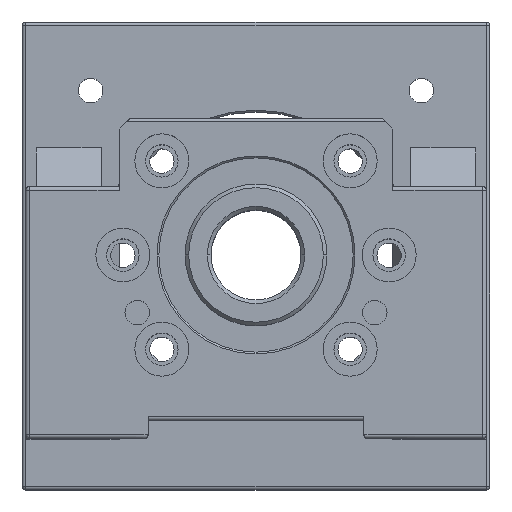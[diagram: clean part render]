
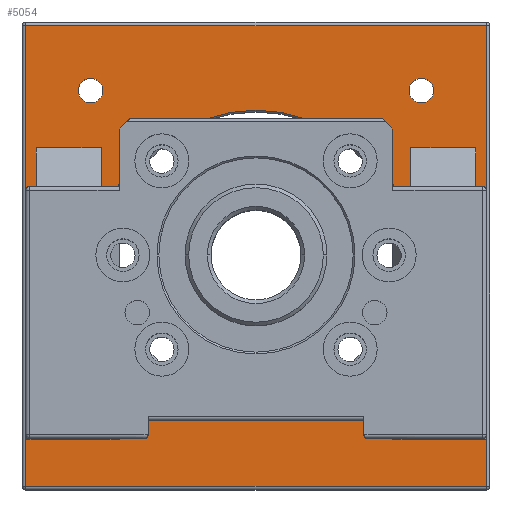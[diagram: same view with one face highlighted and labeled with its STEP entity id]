
A CAD part, top view. The second image highlights one B-rep face of the part: STEP entity #5054.
In plain terms, the highlighted planar face has unit normal (0, 0, 1).
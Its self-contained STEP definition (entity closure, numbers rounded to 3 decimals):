
#1809=DIRECTION('',(0.,-1.,0.));
#1810=VECTOR('',#1809,81.);
#1811=CARTESIAN_POINT('',(-61.,30.,20.));
#1812=LINE('',#1811,#1810);
#1817=CARTESIAN_POINT('',(-45.962,-45.962,20.));
#1818=DIRECTION('',(0.,0.,-1.));
#1819=DIRECTION('',(0.871,0.491,0.));
#1820=AXIS2_PLACEMENT_3D('',#1817,#1818,#1819);
#1822=DIRECTION('',(-1.,0.,0.));
#1823=VECTOR('',#1822,17.);
#1824=CARTESIAN_POINT('',(-44.,-51.,20.));
#1825=LINE('',#1824,#1823);
#1826=CARTESIAN_POINT('',(-44.,-50.,20.));
#1827=DIRECTION('',(0.,0.,-1.));
#1828=DIRECTION('',(1.,0.,0.));
#1829=AXIS2_PLACEMENT_3D('',#1826,#1827,#1828);
#1831=CARTESIAN_POINT('',(-45.962,-45.962,20.));
#1832=DIRECTION('',(0.,0.,-1.));
#1833=DIRECTION('',(1.,0.,0.));
#1834=AXIS2_PLACEMENT_3D('',#1831,#1832,#1833);
#1836=CARTESIAN_POINT('',(45.962,-45.962,20.));
#1837=DIRECTION('',(0.,0.,-1.));
#1838=DIRECTION('',(-0.871,-0.491,0.));
#1839=AXIS2_PLACEMENT_3D('',#1836,#1837,#1838);
#1841=CARTESIAN_POINT('',(44.,-50.,20.));
#1842=DIRECTION('',(0.,0.,-1.));
#1843=DIRECTION('',(0.,-1.,0.));
#1844=AXIS2_PLACEMENT_3D('',#1841,#1842,#1843);
#1846=DIRECTION('',(-1.,0.,0.));
#1847=VECTOR('',#1846,16.);
#1848=CARTESIAN_POINT('',(60.,-51.,20.));
#1849=LINE('',#1848,#1847);
#1850=CARTESIAN_POINT('',(60.,-50.,20.));
#1851=DIRECTION('',(0.,0.,-1.));
#1852=DIRECTION('',(1.,0.,0.));
#1853=AXIS2_PLACEMENT_3D('',#1850,#1851,#1852);
#1855=CARTESIAN_POINT('',(45.962,-45.962,20.));
#1856=DIRECTION('',(0.,0.,-1.));
#1857=DIRECTION('',(-1.,0.,0.));
#1858=AXIS2_PLACEMENT_3D('',#1855,#1856,#1857);
#1860=CARTESIAN_POINT('',(45.962,45.962,20.));
#1861=DIRECTION('',(0.,0.,-1.));
#1862=DIRECTION('',(-1.,0.,0.));
#1863=AXIS2_PLACEMENT_3D('',#1860,#1861,#1862);
#1865=CARTESIAN_POINT('',(45.962,45.962,20.));
#1866=DIRECTION('',(0.,0.,-1.));
#1867=DIRECTION('',(1.,0.,0.));
#1868=AXIS2_PLACEMENT_3D('',#1865,#1866,#1867);
#1870=CARTESIAN_POINT('',(-45.962,45.962,20.));
#1871=DIRECTION('',(0.,0.,-1.));
#1872=DIRECTION('',(-1.,0.,0.));
#1873=AXIS2_PLACEMENT_3D('',#1870,#1871,#1872);
#1875=CARTESIAN_POINT('',(-45.962,45.962,20.));
#1876=DIRECTION('',(0.,0.,-1.));
#1877=DIRECTION('',(1.,0.,0.));
#1878=AXIS2_PLACEMENT_3D('',#1875,#1876,#1877);
#1880=CARTESIAN_POINT('',(0.,0.,20.));
#1881=DIRECTION('',(0.,0.,-1.));
#1882=DIRECTION('',(1.,0.,0.));
#1883=AXIS2_PLACEMENT_3D('',#1880,#1881,#1882);
#1885=CARTESIAN_POINT('',(0.,0.,20.));
#1886=DIRECTION('',(0.,0.,-1.));
#1887=DIRECTION('',(-1.,0.,0.));
#1888=AXIS2_PLACEMENT_3D('',#1885,#1886,#1887);
#1890=DIRECTION('',(0.,1.,0.));
#1891=VECTOR('',#1890,128.);
#1892=CARTESIAN_POINT('',(-64.,-64.,20.));
#1893=LINE('',#1892,#1891);
#1913=DIRECTION('',(1.,0.,0.));
#1914=VECTOR('',#1913,128.);
#1915=CARTESIAN_POINT('',(-64.,64.,20.));
#1916=LINE('',#1915,#1914);
#2091=DIRECTION('',(-1.,0.,0.));
#2092=VECTOR('',#2091,128.);
#2093=CARTESIAN_POINT('',(64.,-64.,20.));
#2094=LINE('',#2093,#2092);
#2137=DIRECTION('',(0.,-1.,0.));
#2138=VECTOR('',#2137,128.);
#2139=CARTESIAN_POINT('',(64.,64.,20.));
#2140=LINE('',#2139,#2138);
#2196=DIRECTION('',(0.,1.,0.));
#2197=VECTOR('',#2196,2.369);
#2198=CARTESIAN_POINT('',(-43.,-50.,20.));
#2199=LINE('',#2198,#2197);
#2208=DIRECTION('',(0.,1.,0.));
#2209=VECTOR('',#2208,74.293);
#2210=CARTESIAN_POINT('',(-43.,-44.293,20.));
#2211=LINE('',#2210,#2209);
#2242=DIRECTION('',(-1.,0.,0.));
#2243=VECTOR('',#2242,18.);
#2244=CARTESIAN_POINT('',(-43.,30.,20.));
#2245=LINE('',#2244,#2243);
#2321=DIRECTION('',(0.,-1.,0.));
#2322=VECTOR('',#2321,74.293);
#2323=CARTESIAN_POINT('',(43.,30.,20.));
#2324=LINE('',#2323,#2322);
#2333=DIRECTION('',(0.,-1.,0.));
#2334=VECTOR('',#2333,2.369);
#2335=CARTESIAN_POINT('',(43.,-47.631,20.));
#2336=LINE('',#2335,#2334);
#2337=DIRECTION('',(-1.,0.,0.));
#2338=VECTOR('',#2337,18.);
#2339=CARTESIAN_POINT('',(61.,30.,20.));
#2340=LINE('',#2339,#2338);
#2356=DIRECTION('',(0.,1.,0.));
#2357=VECTOR('',#2356,80.);
#2358=CARTESIAN_POINT('',(61.,-50.,20.));
#2359=LINE('',#2358,#2357);
#3502=CARTESIAN_POINT('',(61.,-50.,20.));
#3503=CARTESIAN_POINT('',(60.,-51.,20.));
#3504=VERTEX_POINT('',#3502);
#3505=VERTEX_POINT('',#3503);
#3532=CARTESIAN_POINT('',(43.,-47.631,20.));
#3533=CARTESIAN_POINT('',(42.562,-45.962,20.));
#3534=VERTEX_POINT('',#3532);
#3535=VERTEX_POINT('',#3533);
#3537=CARTESIAN_POINT('',(-42.562,-45.962,20.));
#3539=VERTEX_POINT('',#3537);
#3591=CARTESIAN_POINT('',(40.5,0.,20.));
#3592=CARTESIAN_POINT('',(-40.5,0.,20.));
#3593=VERTEX_POINT('',#3591);
#3594=VERTEX_POINT('',#3592);
#3621=CARTESIAN_POINT('',(64.,-64.,20.));
#3622=CARTESIAN_POINT('',(-64.,-64.,20.));
#3623=VERTEX_POINT('',#3621);
#3624=VERTEX_POINT('',#3622);
#3735=CARTESIAN_POINT('',(-43.,-44.293,20.));
#3736=CARTESIAN_POINT('',(-43.,30.,20.));
#3737=VERTEX_POINT('',#3735);
#3738=VERTEX_POINT('',#3736);
#3741=CARTESIAN_POINT('',(43.,-44.293,20.));
#3742=VERTEX_POINT('',#3741);
#3773=CARTESIAN_POINT('',(44.,-51.,20.));
#3774=VERTEX_POINT('',#3773);
#3777=CARTESIAN_POINT('',(-44.,-51.,20.));
#3778=CARTESIAN_POINT('',(-61.,-51.,20.));
#3779=VERTEX_POINT('',#3777);
#3780=VERTEX_POINT('',#3778);
#3796=CARTESIAN_POINT('',(-61.,30.,20.));
#3798=VERTEX_POINT('',#3796);
#3811=CARTESIAN_POINT('',(64.,64.,20.));
#3813=VERTEX_POINT('',#3811);
#3843=CARTESIAN_POINT('',(61.,30.,20.));
#3844=CARTESIAN_POINT('',(43.,30.,20.));
#3845=VERTEX_POINT('',#3843);
#3846=VERTEX_POINT('',#3844);
#3882=CARTESIAN_POINT('',(-64.,64.,20.));
#3883=VERTEX_POINT('',#3882);
#3921=CARTESIAN_POINT('',(49.362,45.962,20.));
#3923=VERTEX_POINT('',#3921);
#3995=CARTESIAN_POINT('',(-42.562,45.962,20.));
#3996=CARTESIAN_POINT('',(-49.362,45.962,20.));
#3997=VERTEX_POINT('',#3995);
#3998=VERTEX_POINT('',#3996);
#4026=CARTESIAN_POINT('',(-43.,-50.,20.));
#4027=CARTESIAN_POINT('',(-43.,-47.631,20.));
#4028=VERTEX_POINT('',#4026);
#4029=VERTEX_POINT('',#4027);
#4084=CARTESIAN_POINT('',(43.,-50.,20.));
#4085=VERTEX_POINT('',#4084);
#4094=CARTESIAN_POINT('',(42.562,45.962,20.));
#4095=VERTEX_POINT('',#4094);
#4985=CARTESIAN_POINT('',(0.,0.,20.));
#4986=DIRECTION('',(0.,0.,1.));
#4987=DIRECTION('',(1.,0.,0.));
#4988=AXIS2_PLACEMENT_3D('',#4985,#4986,#4987);
#4989=PLANE('',#4988);
#4991=ORIENTED_EDGE('',*,*,#4990,.T.);
#4993=ORIENTED_EDGE('',*,*,#4992,.T.);
#4995=ORIENTED_EDGE('',*,*,#4994,.T.);
#4997=ORIENTED_EDGE('',*,*,#4996,.T.);
#4998=EDGE_LOOP('',(#4991,#4993,#4995,#4997));
#4999=FACE_OUTER_BOUND('',#4998,.F.);
#5001=ORIENTED_EDGE('',*,*,#5000,.F.);
#5003=ORIENTED_EDGE('',*,*,#5002,.T.);
#5005=ORIENTED_EDGE('',*,*,#5004,.T.);
#5006=ORIENTED_EDGE('',*,*,#4976,.T.);
#5007=ORIENTED_EDGE('',*,*,#4497,.F.);
#5009=ORIENTED_EDGE('',*,*,#5008,.F.);
#5011=ORIENTED_EDGE('',*,*,#5010,.T.);
#5013=ORIENTED_EDGE('',*,*,#5012,.F.);
#5014=EDGE_LOOP('',(#5001,#5003,#5005,#5006,#5007,#5009,#5011,#5013));
#5015=FACE_BOUND('',#5014,.F.);
#5017=ORIENTED_EDGE('',*,*,#5016,.F.);
#5019=ORIENTED_EDGE('',*,*,#5018,.T.);
#5021=ORIENTED_EDGE('',*,*,#5020,.F.);
#5023=ORIENTED_EDGE('',*,*,#5022,.F.);
#5025=ORIENTED_EDGE('',*,*,#5024,.F.);
#5027=ORIENTED_EDGE('',*,*,#5026,.T.);
#5029=ORIENTED_EDGE('',*,*,#5028,.T.);
#5031=ORIENTED_EDGE('',*,*,#5030,.T.);
#5033=ORIENTED_EDGE('',*,*,#5032,.F.);
#5034=EDGE_LOOP('',(#5017,#5019,#5021,#5023,#5025,#5027,#5029,#5031,#5033));
#5035=FACE_BOUND('',#5034,.F.);
#5037=ORIENTED_EDGE('',*,*,#5036,.F.);
#5039=ORIENTED_EDGE('',*,*,#5038,.F.);
#5040=EDGE_LOOP('',(#5037,#5039));
#5041=FACE_BOUND('',#5040,.F.);
#5043=ORIENTED_EDGE('',*,*,#5042,.F.);
#5045=ORIENTED_EDGE('',*,*,#5044,.F.);
#5046=EDGE_LOOP('',(#5043,#5045));
#5047=FACE_BOUND('',#5046,.F.);
#5049=ORIENTED_EDGE('',*,*,#5048,.F.);
#5051=ORIENTED_EDGE('',*,*,#5050,.F.);
#5052=EDGE_LOOP('',(#5049,#5051));
#5053=FACE_BOUND('',#5052,.F.);
#1821=CIRCLE('',#1820,3.4);
#1830=CIRCLE('',#1829,1.);
#1835=CIRCLE('',#1834,3.4);
#1840=CIRCLE('',#1839,3.4);
#1845=CIRCLE('',#1844,1.);
#1854=CIRCLE('',#1853,1.);
#1859=CIRCLE('',#1858,3.4);
#1864=CIRCLE('',#1863,3.4);
#1869=CIRCLE('',#1868,3.4);
#1874=CIRCLE('',#1873,3.4);
#1879=CIRCLE('',#1878,3.4);
#1884=CIRCLE('',#1883,40.5);
#1889=CIRCLE('',#1888,40.5);
#4497=EDGE_CURVE('',#3779,#3780,#1825,.T.);
#4976=EDGE_CURVE('',#3798,#3780,#1812,.T.);
#4990=EDGE_CURVE('',#3624,#3883,#1893,.T.);
#4992=EDGE_CURVE('',#3883,#3813,#1916,.T.);
#4994=EDGE_CURVE('',#3813,#3623,#2140,.T.);
#4996=EDGE_CURVE('',#3623,#3624,#2094,.T.);
#5000=EDGE_CURVE('',#3737,#3539,#1821,.T.);
#5002=EDGE_CURVE('',#3737,#3738,#2211,.T.);
#5004=EDGE_CURVE('',#3738,#3798,#2245,.T.);
#5008=EDGE_CURVE('',#4028,#3779,#1830,.T.);
#5010=EDGE_CURVE('',#4028,#4029,#2199,.T.);
#5012=EDGE_CURVE('',#3539,#4029,#1835,.T.);
#5016=EDGE_CURVE('',#3534,#3535,#1840,.T.);
#5018=EDGE_CURVE('',#3534,#4085,#2336,.T.);
#5020=EDGE_CURVE('',#3774,#4085,#1845,.T.);
#5022=EDGE_CURVE('',#3505,#3774,#1849,.T.);
#5024=EDGE_CURVE('',#3504,#3505,#1854,.T.);
#5026=EDGE_CURVE('',#3504,#3845,#2359,.T.);
#5028=EDGE_CURVE('',#3845,#3846,#2340,.T.);
#5030=EDGE_CURVE('',#3846,#3742,#2324,.T.);
#5032=EDGE_CURVE('',#3535,#3742,#1859,.T.);
#5036=EDGE_CURVE('',#4095,#3923,#1864,.T.);
#5038=EDGE_CURVE('',#3923,#4095,#1869,.T.);
#5042=EDGE_CURVE('',#3998,#3997,#1874,.T.);
#5044=EDGE_CURVE('',#3997,#3998,#1879,.T.);
#5048=EDGE_CURVE('',#3593,#3594,#1884,.T.);
#5050=EDGE_CURVE('',#3594,#3593,#1889,.T.);
#5054=ADVANCED_FACE('',(#4999,#5015,#5035,#5041,#5047,#5053),#4989,.T.);
